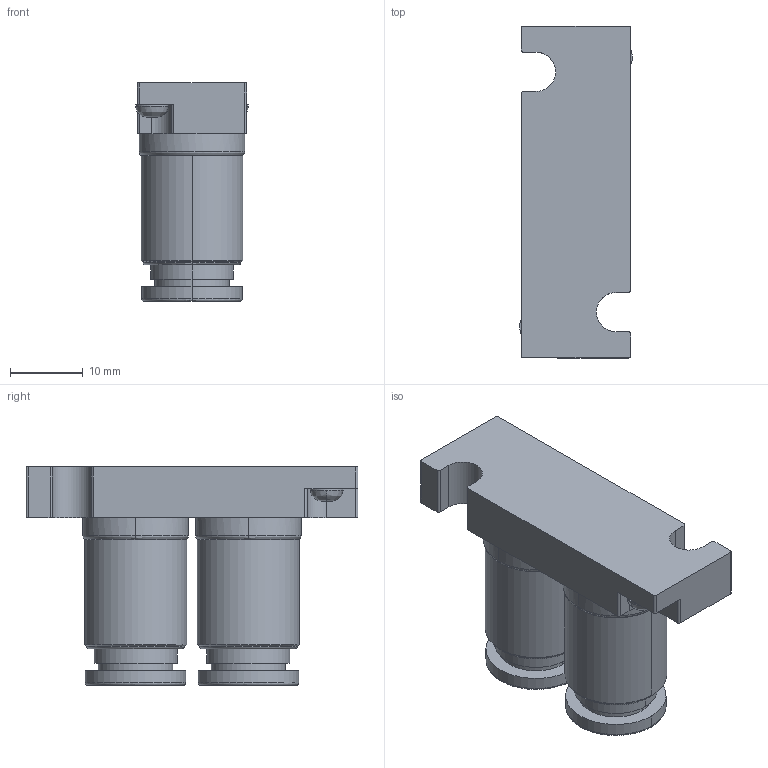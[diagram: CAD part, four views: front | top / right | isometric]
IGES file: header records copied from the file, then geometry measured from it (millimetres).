
Start section: ------------------------------------------------------------------------
Global section: file name: D:\ICADMX\tmp\trans3d_spg\CVICAD02.4536.F15_Port-VJ6_17978.igs; native system: spGate; preprocessor: ver12.6.6; author: Unknown; organization: Unknown; date: 210712.185451; units: millimetre
Bounding box: 15.5 x 45.6 x 30 mm (x, y, z)
Volume: 9027.9 mm3; surface area: 5480.6 mm2
Topology: 1 solids, 1 shells, 102 faces, 238 edges, 150 vertices
Faces by surface type: bspline 102
